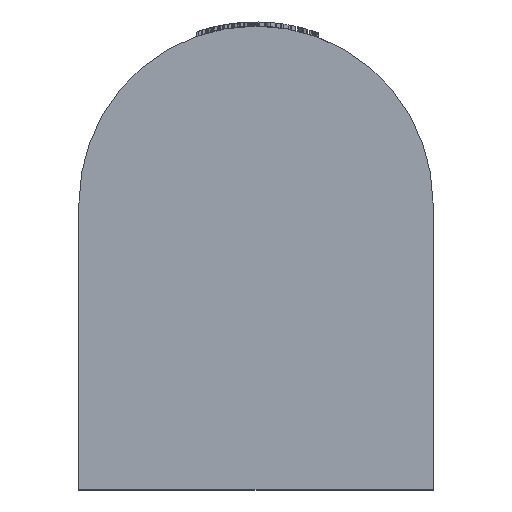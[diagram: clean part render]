
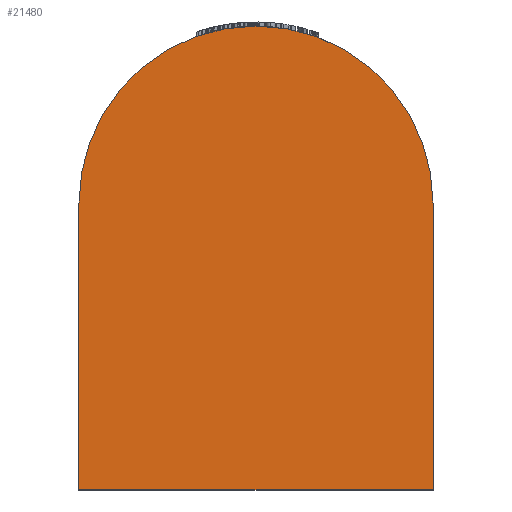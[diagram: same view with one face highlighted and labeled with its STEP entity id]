
A CAD part, top view. The second image highlights one B-rep face of the part: STEP entity #21480.
In plain terms, the highlighted planar face has unit normal (0, 0, 1).
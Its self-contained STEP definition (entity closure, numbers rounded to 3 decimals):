
#1515=PLANE('',#22864);
#2334=FACE_OUTER_BOUND('',#3596,.T.);
#3596=EDGE_LOOP('',(#15580,#15581,#15582,#15583));
#5198=CIRCLE('',#22863,42.);
#5842=LINE('',#32099,#7430);
#5845=LINE('',#32104,#7433);
#5847=LINE('',#32108,#7435);
#7430=VECTOR('',#25315,10.);
#7433=VECTOR('',#25320,10.);
#7435=VECTOR('',#25324,10.);
#9169=VERTEX_POINT('',#32097);
#9170=VERTEX_POINT('',#32098);
#9171=VERTEX_POINT('',#32103);
#9172=VERTEX_POINT('',#32107);
#11596=EDGE_CURVE('',#9169,#9170,#5842,.T.);
#11599=EDGE_CURVE('',#9170,#9171,#5845,.T.);
#11601=EDGE_CURVE('',#9171,#9172,#5847,.T.);
#11603=EDGE_CURVE('',#9172,#9169,#5198,.T.);
#15580=ORIENTED_EDGE('',*,*,#11596,.F.);
#15581=ORIENTED_EDGE('',*,*,#11603,.F.);
#15582=ORIENTED_EDGE('',*,*,#11601,.F.);
#15583=ORIENTED_EDGE('',*,*,#11599,.F.);
#21480=ADVANCED_FACE('',(#2334),#1515,.T.);
#22863=AXIS2_PLACEMENT_3D('',#32111,#25328,#25329);
#22864=AXIS2_PLACEMENT_3D('',#32112,#25330,#25331);
#25315=DIRECTION('',(0.,-1.,0.));
#25320=DIRECTION('',(-1.,0.,0.));
#25324=DIRECTION('',(0.,1.,0.));
#25328=DIRECTION('center_axis',(0.,0.,-1.));
#25329=DIRECTION('ref_axis',(-1.,0.,0.));
#25330=DIRECTION('center_axis',(0.,0.,1.));
#25331=DIRECTION('ref_axis',(1.,0.,0.));
#32097=CARTESIAN_POINT('',(42.,68.,49.));
#32098=CARTESIAN_POINT('',(42.,0.,49.));
#32099=CARTESIAN_POINT('',(42.,68.,49.));
#32103=CARTESIAN_POINT('',(-42.,0.,49.));
#32104=CARTESIAN_POINT('',(42.,0.,49.));
#32107=CARTESIAN_POINT('',(-42.,68.,49.));
#32108=CARTESIAN_POINT('',(-42.,0.,49.));
#32111=CARTESIAN_POINT('Origin',(0.,68.,49.));
#32112=CARTESIAN_POINT('Origin',(0.,47.67,
49.));
